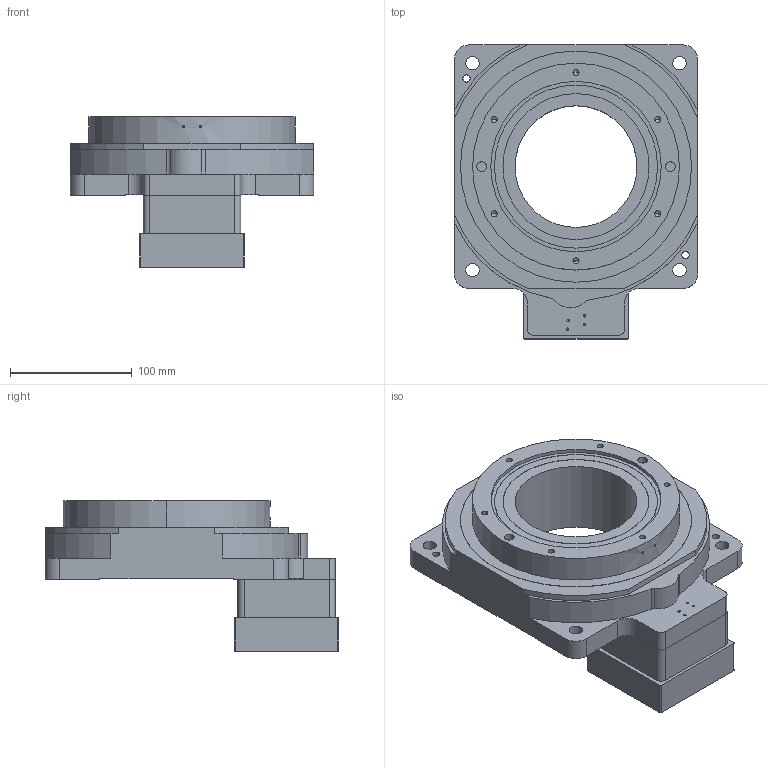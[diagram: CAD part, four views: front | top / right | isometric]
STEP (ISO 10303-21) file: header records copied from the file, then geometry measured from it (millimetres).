
FILE_DESCRIPTION (( 'STEP AP214' ), '1' );
FILE_NAME ('TS200-18K-86²½½ø 73 ¦µ14.STEP', '2020-05-15T08:09:35', ( '' ), ( '' ), 'SwSTEP 2.0', 'SolidWorks 2020', '' );
FILE_SCHEMA (( 'AUTOMOTIVE_DESIGN' ));
Length unit declared in the file: millimetre
Products named in the file (3): 1; TS200-18K-86祭輛 73 朴14; TS200-18K-750W-M5
Assembly tree (2 placements, depth 2):
  TS200-18K-86祭輛 73 朴14
    TS200-18K-750W-M5
    1
Bounding box: 200 x 241.5 x 123.5 mm (x, y, z)
Volume: 1966540.5 mm3; surface area: 183855.4 mm2
Topology: 3 solids, 3 shells, 194 faces, 498 edges, 312 vertices
Faces by surface type: cylinder 108, plane 62, cone 24
Entity records: 5983 total; most frequent: DIRECTION 1082, CARTESIAN_POINT 1053, ORIENTED_EDGE 948, EDGE_CURVE 474, AXIS2_PLACEMENT_3D 413, VERTEX_POINT 312, LINE 256, VECTOR 256
